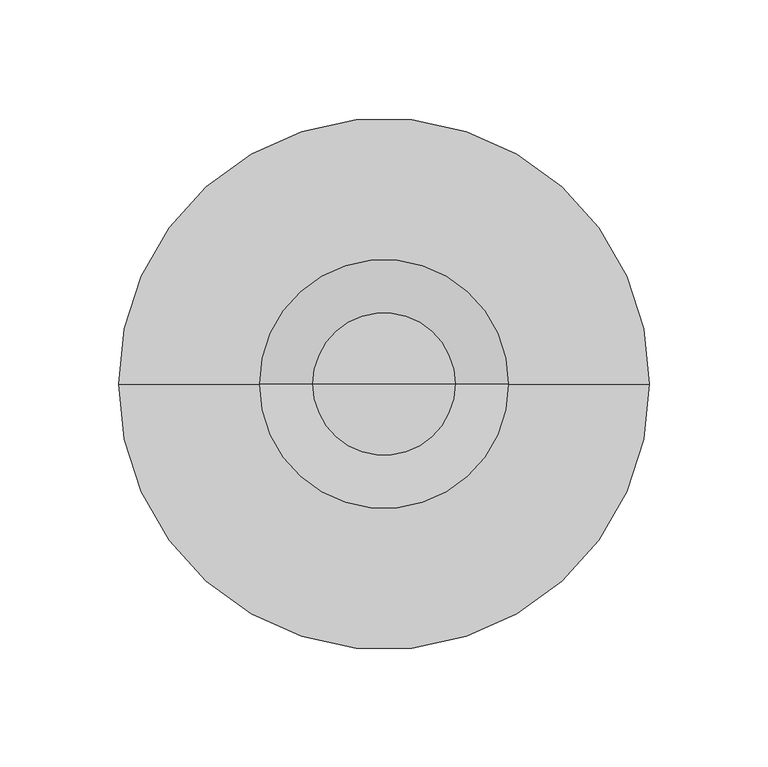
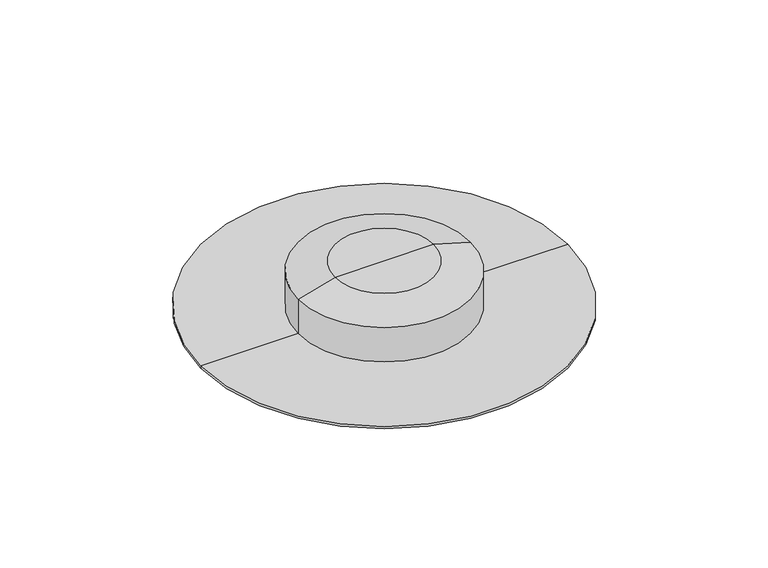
"""IFC4 building model written with IfcOpenShell, lengths in millimetres: light fixture geometry, GENILED_Светильник светодиодный_Сейлинг : Сейлинг 30Вт 3000К 90Ra IP54."""

from ifc_helpers import new_model, si_unit, frame, origin, place, context, project, spatial, polyline, circle_curve, source, transform, mapped, element, save
from ifc_brep_helpers import plane_surface, cylinder_surface, revolved_surface, advanced_brep


def light_fixture_ede7c11f(model_context):
    return source(origin(), model_context, "Body", "AdvancedBrep", [
        advanced_brep(
        [(30.0, 0.0, 28.5), (-30.0, 0.0, 28.5), (0.0, 0.0, 28.5), (52.5, 0.0, 22.2), (-52.5, 0.0, 22.2), (52.5, 0.0, 0.0), (-52.5, 0.0, 0.0), (112.0, 0.0, 0.0), (-112.0, 0.0, 0.0), (112.0, 0.0, -1.5), (-112.0, 0.0, -1.5), (0.0, 0.0, -1.5)],
        [
            (0, 1, circle_curve(frame((0.0, 0.0, 28.5), z_axis=(0.0, 0.0, 1.0), x_axis=(-1.0, 0.0, 0.0)), 30.0)),
            (1, 2),
            (2, 0),
            (1, 0, circle_curve(frame((0.0, 0.0, 28.5), z_axis=(0.0, 0.0, 1.0), x_axis=(-1.0, 0.0, 0.0)), 30.0)),
            (3, 4, circle_curve(frame((0.0, 0.0, 22.2), z_axis=(0.0, 0.0, 1.0), x_axis=(-1.0, 0.0, 0.0)), 52.5)),
            (4, 1),
            (0, 3),
            (4, 3, circle_curve(frame((0.0, 0.0, 22.2), z_axis=(0.0, 0.0, 1.0), x_axis=(-1.0, 0.0, 0.0)), 52.5)),
            (5, 6, circle_curve(frame((0.0, 0.0, 0.0), z_axis=(0.0, 0.0, 1.0), x_axis=(-1.0, 0.0, 0.0)), 52.5)),
            (6, 4),
            (3, 5),
            (6, 5, circle_curve(frame((0.0, 0.0, 0.0), z_axis=(0.0, 0.0, 1.0), x_axis=(-1.0, 0.0, 0.0)), 52.5)),
            (7, 8, circle_curve(frame((0.0, 0.0, 0.0), z_axis=(0.0, 0.0, 1.0), x_axis=(-1.0, 0.0, 0.0)), 112.0)),
            (8, 6),
            (5, 7),
            (8, 7, circle_curve(frame((0.0, 0.0, 0.0), z_axis=(0.0, 0.0, 1.0), x_axis=(-1.0, 0.0, 0.0)), 112.0)),
            (9, 10, circle_curve(frame((0.0, 0.0, -1.5), z_axis=(0.0, 0.0, 1.0), x_axis=(-1.0, 0.0, 0.0)), 112.0)),
            (10, 8),
            (7, 9),
            (10, 9, circle_curve(frame((0.0, 0.0, -1.5), z_axis=(0.0, 0.0, 1.0), x_axis=(-1.0, 0.0, 0.0)), 112.0)),
            (11, 10),
            (9, 11),
        ],
        [
            plane_surface(frame((0.0, 0.0, 28.5), z_axis=(0.0, 0.0, 1.0), x_axis=(-1.0, 0.0, 0.0))),
            revolved_surface(polyline([(-30.0, 0.0, 28.5), (-52.5, 0.0, 22.2)]), (0.0, 0.0, 68.5), (0.0, 0.0, -1.0)),
            cylinder_surface(frame((0.0, 0.0, 68.5), z_axis=(0.0, 0.0, -1.0), x_axis=(-1.0, 0.0, 0.0)), 52.5),
            plane_surface(frame((0.0, 0.0, 0.0), z_axis=(0.0, 0.0, 1.0), x_axis=(-1.0, 0.0, 0.0))),
            cylinder_surface(frame((0.0, 0.0, 68.5), z_axis=(0.0, 0.0, -1.0), x_axis=(-1.0, 0.0, 0.0)), 112.0),
            plane_surface(frame((0.0, 0.0, -1.5), z_axis=(0.0, 0.0, -1.0), x_axis=(-1.0, 0.0, 0.0))),
        ],
        [
            (0, [[1, 2, 3]]),
            (0, [[4, -3, -2]]),
            (1, [[5, 6, -1, 7]]),
            (1, [[8, -7, -4, -6]]),
            (2, [[9, 10, -5, 11]]),
            (2, [[12, -11, -8, -10]]),
            (3, [[13, 14, -9, 15]]),
            (3, [[16, -15, -12, -14]]),
            (4, [[17, 18, -13, 19]]),
            (4, [[20, -19, -16, -18]]),
            (5, [[21, -17, 22]]),
            (5, [[-22, -20, -21]]),
        ],
    ),
    ])


if __name__ == "__main__":
    model = new_model("IFC4")
    model_context = context("Model", 3, world=origin())
    ifc_project = project(units=[si_unit("LENGTHUNIT", "METRE", prefix="MILLI")], contexts=[model_context])
    site = spatial("IfcSite", under=ifc_project)
    building = spatial("IfcBuilding", under=site)
    placement = place(None, origin())
    light_fixture_shape = light_fixture_ede7c11f(model_context)
    element("IfcLightFixture", 1, ObjectType="GENILED_Светильник светодиодный_Сейлинг : Сейлинг 30Вт 3000К 90Ra IP54", at=placement, inside=building, context=model_context, shape_type="MappedRepresentation", body=[
        mapped(light_fixture_shape, transform((0.0, 0.0, 0.0), x_axis=(1.0, 0.0, 0.0), y_axis=(0.0, 1.0, 0.0), z_axis=(0.0, 0.0, 1.0))),
    ])
    save(model, "model.ifc")
